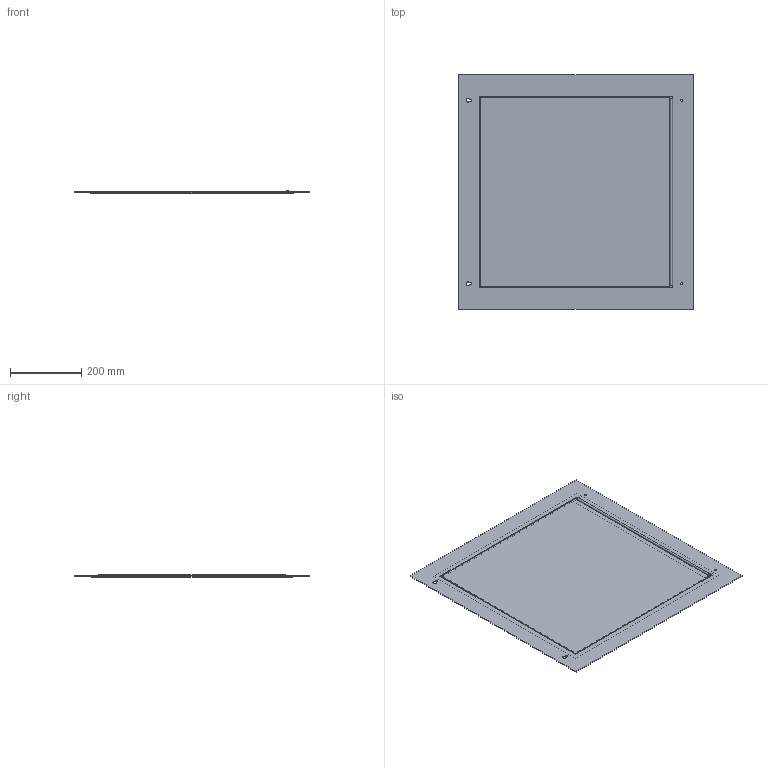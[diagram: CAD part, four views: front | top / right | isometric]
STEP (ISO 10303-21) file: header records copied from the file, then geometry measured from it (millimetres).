
FILE_DESCRIPTION((''),'1');
FILE_NAME('6','2001-04-17T',('jlue'),(''),'PRO/ENGINEER BY PARAMETRIC TECHNOLOGY CORPORATION, 9846','PRO/ENGINEER BY PARAMETRIC TECHNOLOGY CORPORATION, 9846','');
FILE_SCHEMA(('CONFIG_CONTROL_DESIGN'));
Length unit declared in the file: inch
Products named in the file (1): 6
Bounding box: 660.4 x 660.4 x 7.46 mm (x, y, z)
Surface area: 911050.3 mm2 (no closed solid volume)
Topology: 0 solids, 0 shells, 53 faces, 324 edges, 350 vertices
Faces by surface type: plane 40, cylinder 13
Entity records: 1631 total; most frequent: DIRECTION 312, COMPOSITE_CURVE_SEGMENT 298, CARTESIAN_POINT 228, TRIMMED_CURVE 175, VECTOR 144, LINE 144, AXIS2_PLACEMENT_3D 84, CURVE_BOUNDED_SURFACE 53
